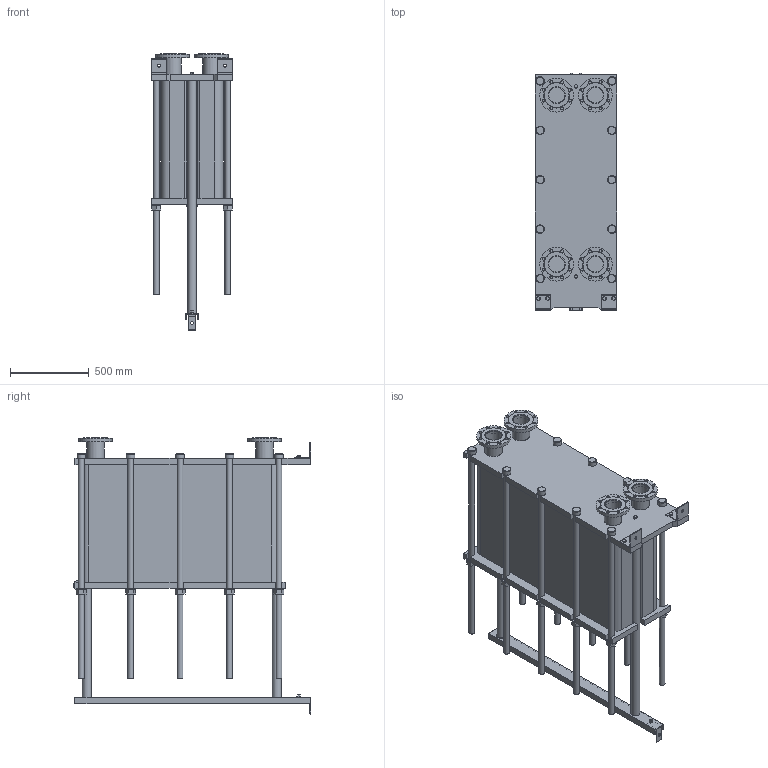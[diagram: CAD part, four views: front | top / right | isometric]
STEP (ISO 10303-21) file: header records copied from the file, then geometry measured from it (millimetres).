
FILE_DESCRIPTION(/* description */ (''),/* implementation_level */ '2;1');
FILE_NAME(/* name */ 'C:\Users\zhuro\Desktop\ENCO\TO\ЭН-04\ЭН-0,5-04-217-1.stp',/* time_stamp */ '2022-06-06T11:04:54+03:00',/* author */ ('zhuro'),/* organization */ (''),/* preprocessor_version */ 'ST-DEVELOPER v18.1',/* originating_system */ 'Autodesk Inventor 2022',/* authorisation */ '');
FILE_SCHEMA (('AUTOMOTIVE_DESIGN { 1 0 10303 214 3 1 1 }'));
Length unit declared in the file: millimetre
Products named in the file (1): ЭН-0,5-04-217-1
Bounding box: 520 x 1510 x 1758.5 mm (x, y, z)
Volume: 451646525.6 mm3; surface area: 10928103 mm2
Topology: 45 solids, 45 shells, 668 faces, 1611 edges, 1048 vertices
Faces by surface type: plane 457, cylinder 166, cone 39, torus 6
Full cylindrical faces by diameter (mm): 8 x4, 10 x2, 16 x8, 18 x35, 36 x25, 40 x2, 42 x1, 45 x4, 54 x10, 57 x2, 60 x10, 68 x2, 100 x4, 110 x8, 215 x4
Entity records: 23607 total; most frequent: CARTESIAN_POINT 7348, DIRECTION 3371, ORIENTED_EDGE 3142, EDGE_CURVE 1571, AXIS2_PLACEMENT_3D 1199, VERTEX_POINT 1044, LINE 973, VECTOR 973
